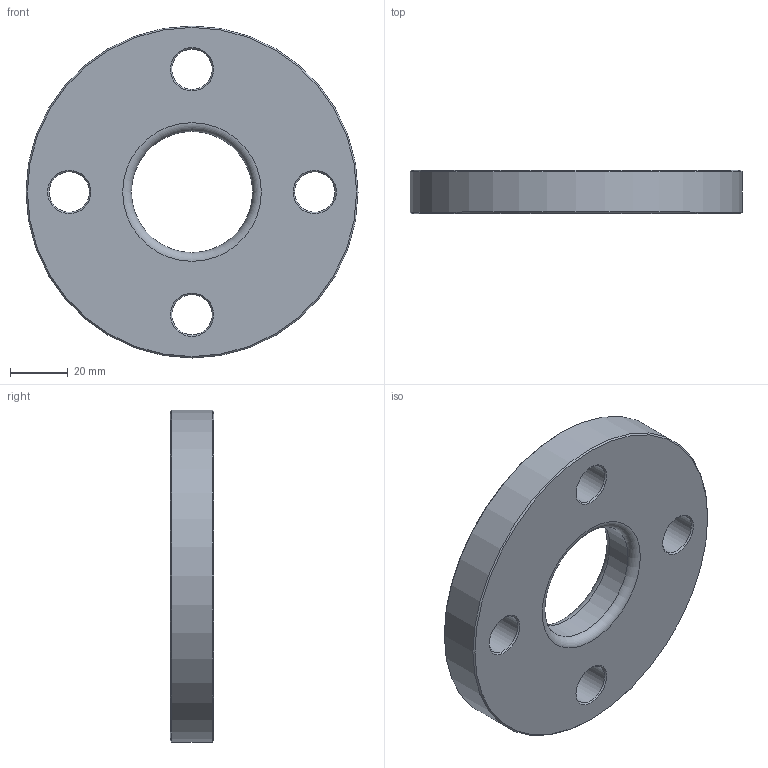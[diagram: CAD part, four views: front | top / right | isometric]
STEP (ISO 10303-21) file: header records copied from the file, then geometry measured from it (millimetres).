
FILE_DESCRIPTION(/* description */ ('Unknown'),/* implementation_level */ '2;1');
FILE_NAME(/* name */ 'FR032C',/* time_stamp */ '2022-07-05T15:41:09+02:00',/* author */ ('Unknown'),/* organization */ ('Unknown'),/* preprocessor_version */ 'ST-DEVELOPER v18.102',/* originating_system */ 'Solid Edge',/* authorisation */ 'Unknown');
FILE_SCHEMA (('AUTOMOTIVE_DESIGN {1 0 10303 214 3 1 1}'));
Length unit declared in the file: millimetre
Products named in the file (1): FR032C
Bounding box: 115 x 15 x 115 mm (x, y, z)
Volume: 125124.4 mm3; surface area: 26164.3 mm2
Topology: 1 solids, 1 shells, 20 faces, 54 edges, 36 vertices
Faces by surface type: cone 10, cylinder 6, plane 2, torus 2
Full cylindrical faces by diameter (mm): 14 x4, 42 x1, 115 x1
Entity records: 494 total; most frequent: DIRECTION 90, CARTESIAN_POINT 69, ORIENTED_EDGE 48, EDGE_LOOP 48, FACE_BOUND 48, AXIS2_PLACEMENT_3D 45, EDGE_CURVE 24, VERTEX_POINT 24
